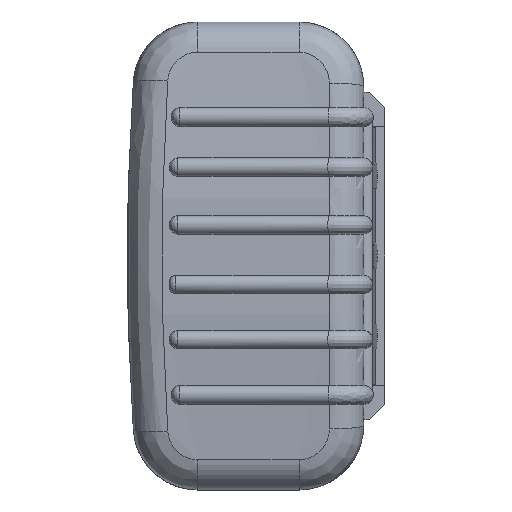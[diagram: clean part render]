
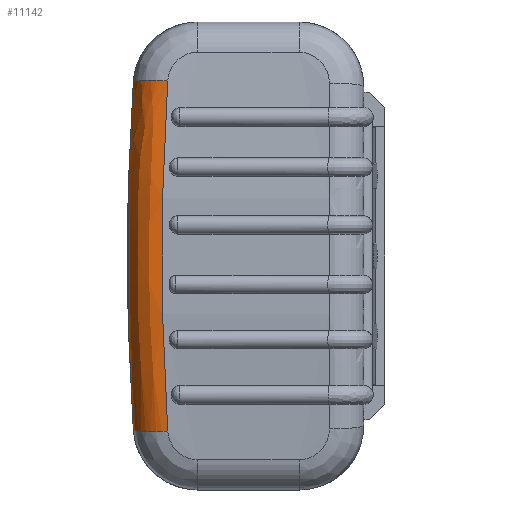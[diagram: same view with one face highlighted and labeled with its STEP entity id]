
A CAD part, left-side view. The second image highlights one B-rep face of the part: STEP entity #11142.
In plain terms, the highlighted free-form (B-spline) face has degree [3, 2] with [6, 3] control points.
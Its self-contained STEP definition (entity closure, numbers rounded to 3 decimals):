
#207 = CARTESIAN_POINT ( 'NONE',  ( 80.55, 45.446, -39.698 ) ) ;
#432 = VERTEX_POINT ( 'NONE', #14682 ) ;
#2302 = ORIENTED_EDGE ( 'NONE', *, *, #23176, .F. ) ;
#2690 = CARTESIAN_POINT ( 'NONE',  ( 90.667, 54.777, -13.695 ) ) ;
#2913 = B_SPLINE_CURVE_WITH_KNOTS ( 'NONE', 3,
 ( #29193, #19050, #12426, #35980, #15834 ),
 .UNSPECIFIED., .F., .F.,
 ( 4, 1, 4 ),
 ( 0., 0.041, 0.081 ),
 .UNSPECIFIED. ) ;
#3499 = CARTESIAN_POINT ( 'NONE',  ( 80.55, 53.428, 40.234 ) ) ;
#3649 = DIRECTION ( 'NONE',  ( 0.994, 0., -0.106 ) ) ;
#3849 = VERTEX_POINT ( 'NONE', #33538 ) ;
#4748 = EDGE_CURVE ( 'NONE', #3849, #432, #6980, .T. ) ;
#6087 = CARTESIAN_POINT ( 'NONE',  ( 82.667, 54.777, 13.411 ) ) ;
#6909 = CARTESIAN_POINT ( 'NONE',  ( 83.368, 55.225, 0. ) ) ;
#6980 = CIRCLE ( 'NONE', #26855, 8. ) ;
#7003 = B_SPLINE_CURVE_WITH_KNOTS ( 'NONE', 3,
 ( #3499, #27042, #6909, #30430, #10274 ),
 .UNSPECIFIED., .F., .F.,
 ( 4, 1, 4 ),
 ( 0., 0.04, 0.08 ),
 .UNSPECIFIED. ) ;
#9499 = CARTESIAN_POINT ( 'NONE',  ( 90.667, 46.777, 13.516 ) ) ;
#10274 = CARTESIAN_POINT ( 'NONE',  ( 80.55, 53.428, -40.234 ) ) ;
#10663 = EDGE_CURVE ( 'NONE', #42549, #26259, #16775, .T. ) ;
#11142 = ADVANCED_FACE ( 'NONE', ( #25645 ), #12942, .T. ) ;
#12426 = CARTESIAN_POINT ( 'NONE',  ( 91.383, 47.219, 0. ) ) ;
#12848 = CARTESIAN_POINT ( 'NONE',  ( 89.935, 54.311, 27.357 ) ) ;
#12942 =( BOUNDED_SURFACE ( )  B_SPLINE_SURFACE ( 3, 2, ( 
 ( #36265, #32852, #26085 ),
 ( #39668, #19472, #43054 ),
 ( #22826, #2690, #26233 ),
 ( #6087, #29622, #9499 ),
 ( #32997, #12848, #36423 ),
 ( #16226, #39810, #19600 ) ),
 .UNSPECIFIED., .F., .F., .F. ) 
 B_SPLINE_SURFACE_WITH_KNOTS ( ( 4, 2, 4 ),
 ( 3, 3 ),
 ( 0., 0.04, 0.079 ),
 ( 0., 1. ),
 .UNSPECIFIED. ) 
 GEOMETRIC_REPRESENTATION_ITEM ( )  RATIONAL_B_SPLINE_SURFACE ( (
 ( 1., 0.71, 1.),
 ( 1., 0.708, 1.),
 ( 1., 0.707, 1.),
 ( 1., 0.707, 1.),
 ( 1., 0.708, 1.),
 ( 1., 0.71, 1.) ) ) 
 REPRESENTATION_ITEM ( '' )  SURFACE ( )  );
#13108 = EDGE_LOOP ( 'NONE', ( #35519, #14139, #27088, #2302 ) ) ;
#13796 = CARTESIAN_POINT ( 'NONE',  ( 80.55, 45.446, 39.698 ) ) ;
#14139 = ORIENTED_EDGE ( 'NONE', *, *, #26178, .F. ) ;
#14682 = CARTESIAN_POINT ( 'NONE',  ( 80.55, 53.428, 40.234 ) ) ;
#15834 = CARTESIAN_POINT ( 'NONE',  ( 88.505, 45.446, 40.548 ) ) ;
#16226 = CARTESIAN_POINT ( 'NONE',  ( 80.55, 53.428, 40.234 ) ) ;
#16775 = CIRCLE ( 'NONE', #41954, 8. ) ;
#17153 = DIRECTION ( 'NONE',  ( 0.994, 0., 0.106 ) ) ;
#19050 = CARTESIAN_POINT ( 'NONE',  ( 89.95, 46.334, -27.032 ) ) ;
#19472 = CARTESIAN_POINT ( 'NONE',  ( 89.935, 54.311, -27.357 ) ) ;
#19600 = CARTESIAN_POINT ( 'NONE',  ( 88.505, 45.446, 40.548 ) ) ;
#22826 = CARTESIAN_POINT ( 'NONE',  ( 82.667, 54.777, -13.411 ) ) ;
#23176 = EDGE_CURVE ( 'NONE', #42549, #3849, #2913, .T. ) ;
#23775 = DIRECTION ( 'NONE',  ( 0.106, 0.067, 0.992 ) ) ;
#25645 = FACE_OUTER_BOUND ( 'NONE', #13108, .T. ) ;
#26085 = CARTESIAN_POINT ( 'NONE',  ( 88.505, 45.446, -40.548 ) ) ;
#26178 = EDGE_CURVE ( 'NONE', #432, #26259, #7003, .T. ) ;
#26233 = CARTESIAN_POINT ( 'NONE',  ( 90.667, 46.777, -13.516 ) ) ;
#26259 = VERTEX_POINT ( 'NONE', #30846 ) ;
#26855 = AXIS2_PLACEMENT_3D ( 'NONE', #13796, #37345, #17153 ) ;
#27042 = CARTESIAN_POINT ( 'NONE',  ( 81.965, 54.328, 26.822 ) ) ;
#27088 = ORIENTED_EDGE ( 'NONE', *, *, #4748, .F. ) ;
#29193 = CARTESIAN_POINT ( 'NONE',  ( 88.505, 45.446, -40.548 ) ) ;
#29622 = CARTESIAN_POINT ( 'NONE',  ( 90.667, 54.777, 13.695 ) ) ;
#30430 = CARTESIAN_POINT ( 'NONE',  ( 81.965, 54.328, -26.822 ) ) ;
#30834 = CARTESIAN_POINT ( 'NONE',  ( 88.505, 45.446, -40.548 ) ) ;
#30846 = CARTESIAN_POINT ( 'NONE',  ( 80.55, 53.428, -40.234 ) ) ;
#32852 = CARTESIAN_POINT ( 'NONE',  ( 88.449, 53.371, -41.074 ) ) ;
#32997 = CARTESIAN_POINT ( 'NONE',  ( 81.965, 54.328, 26.823 ) ) ;
#33538 = CARTESIAN_POINT ( 'NONE',  ( 88.505, 45.446, 40.548 ) ) ;
#35519 = ORIENTED_EDGE ( 'NONE', *, *, #10663, .T. ) ;
#35980 = CARTESIAN_POINT ( 'NONE',  ( 89.95, 46.334, 27.032 ) ) ;
#36265 = CARTESIAN_POINT ( 'NONE',  ( 80.55, 53.428, -40.234 ) ) ;
#36423 = CARTESIAN_POINT ( 'NONE',  ( 89.95, 46.334, 27.032 ) ) ;
#37345 = DIRECTION ( 'NONE',  ( -0.106, -0.067, 0.992 ) ) ;
#39668 = CARTESIAN_POINT ( 'NONE',  ( 81.965, 54.328, -26.823 ) ) ;
#39810 = CARTESIAN_POINT ( 'NONE',  ( 88.449, 53.371, 41.074 ) ) ;
#41954 = AXIS2_PLACEMENT_3D ( 'NONE', #207, #23775, #3649 ) ;
#42549 = VERTEX_POINT ( 'NONE', #30834 ) ;
#43054 = CARTESIAN_POINT ( 'NONE',  ( 89.95, 46.334, -27.032 ) ) ;
